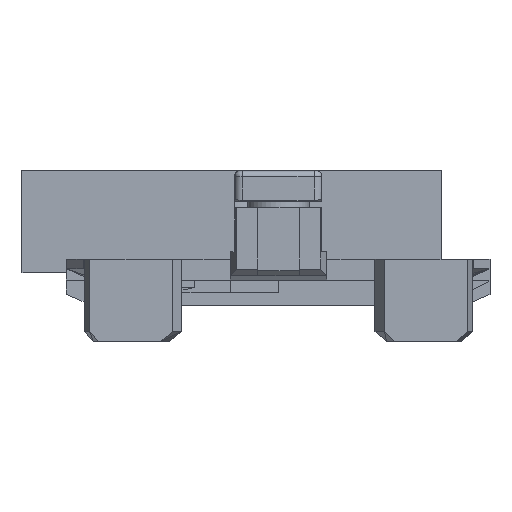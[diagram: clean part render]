
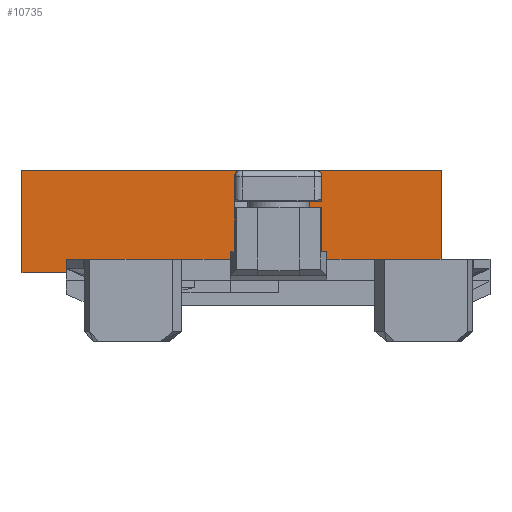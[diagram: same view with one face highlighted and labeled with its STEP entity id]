
A CAD part, left-side view. The second image highlights one B-rep face of the part: STEP entity #10735.
In plain terms, the highlighted planar face has unit normal (-1, 0, 0).
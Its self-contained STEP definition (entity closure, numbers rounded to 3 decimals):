
#32 = PLANE('',#33);
#33 = AXIS2_PLACEMENT_3D('',#34,#35,#36);
#34 = CARTESIAN_POINT('',(-40.,-25.,6.4));
#35 = DIRECTION('',(0.,0.,1.));
#36 = DIRECTION('',(1.,0.,-0.));
#1498 = PLANE('',#1499);
#1499 = AXIS2_PLACEMENT_3D('',#1500,#1501,#1502);
#1500 = CARTESIAN_POINT('',(9.042,16.475,5.37));
#1501 = DIRECTION('',(0.,1.,0.));
#1502 = DIRECTION('',(1.,0.,0.));
#1651 = VERTEX_POINT('',#1652);
#1652 = CARTESIAN_POINT('',(-8.758,-12.666,6.4));
#1666 = PLANE('',#1667);
#1667 = AXIS2_PLACEMENT_3D('',#1668,#1669,#1670);
#1668 = CARTESIAN_POINT('',(-8.758,-12.666,5.35));
#1669 = DIRECTION('',(-0.,1.,0.));
#1670 = DIRECTION('',(0.,0.,1.));
#1678 = EDGE_CURVE('',#1651,#1679,#1681,.T.);
#1679 = VERTEX_POINT('',#1680);
#1680 = CARTESIAN_POINT('',(-8.758,16.475,6.4));
#1681 = SURFACE_CURVE('',#1682,(#1686,#1693),.PCURVE_S1.);
#1682 = LINE('',#1683,#1684);
#1683 = CARTESIAN_POINT('',(-8.758,-12.666,6.4));
#1684 = VECTOR('',#1685,1.);
#1685 = DIRECTION('',(0.,1.,0.));
#1686 = PCURVE('',#32,#1687);
#1687 = DEFINITIONAL_REPRESENTATION('',(#1688),#1692);
#1688 = LINE('',#1689,#1690);
#1689 = CARTESIAN_POINT('',(31.242,12.334));
#1690 = VECTOR('',#1691,1.);
#1691 = DIRECTION('',(0.,1.));
#1692 = ( GEOMETRIC_REPRESENTATION_CONTEXT(2) 
PARAMETRIC_REPRESENTATION_CONTEXT() REPRESENTATION_CONTEXT('2D SPACE',''
  ) );
#1693 = PCURVE('',#1694,#1699);
#1694 = PLANE('',#1695);
#1695 = AXIS2_PLACEMENT_3D('',#1696,#1697,#1698);
#1696 = CARTESIAN_POINT('',(-8.758,-12.666,5.35));
#1697 = DIRECTION('',(1.,0.,-0.));
#1698 = DIRECTION('',(0.,0.,1.));
#1699 = DEFINITIONAL_REPRESENTATION('',(#1700),#1704);
#1700 = LINE('',#1701,#1702);
#1701 = CARTESIAN_POINT('',(1.05,0.));
#1702 = VECTOR('',#1703,1.);
#1703 = DIRECTION('',(0.,-1.));
#1704 = ( GEOMETRIC_REPRESENTATION_CONTEXT(2) 
PARAMETRIC_REPRESENTATION_CONTEXT() REPRESENTATION_CONTEXT('2D SPACE',''
  ) );
#9880 = EDGE_CURVE('',#1679,#9881,#9883,.T.);
#9881 = VERTEX_POINT('',#9882);
#9882 = CARTESIAN_POINT('',(-8.758,16.475,5.35));
#9883 = SURFACE_CURVE('',#9884,(#9888,#9895),.PCURVE_S1.);
#9884 = LINE('',#9885,#9886);
#9885 = CARTESIAN_POINT('',(-8.758,16.475,6.4));
#9886 = VECTOR('',#9887,1.);
#9887 = DIRECTION('',(0.,0.,-1.));
#9888 = PCURVE('',#1498,#9889);
#9889 = DEFINITIONAL_REPRESENTATION('',(#9890),#9894);
#9890 = LINE('',#9891,#9892);
#9891 = CARTESIAN_POINT('',(-17.8,-1.03));
#9892 = VECTOR('',#9893,1.);
#9893 = DIRECTION('',(0.,1.));
#9894 = ( GEOMETRIC_REPRESENTATION_CONTEXT(2) 
PARAMETRIC_REPRESENTATION_CONTEXT() REPRESENTATION_CONTEXT('2D SPACE',''
  ) );
#9895 = PCURVE('',#1694,#9896);
#9896 = DEFINITIONAL_REPRESENTATION('',(#9897),#9901);
#9897 = LINE('',#9898,#9899);
#9898 = CARTESIAN_POINT('',(1.05,-29.141));
#9899 = VECTOR('',#9900,1.);
#9900 = DIRECTION('',(-1.,0.));
#9901 = ( GEOMETRIC_REPRESENTATION_CONTEXT(2) 
PARAMETRIC_REPRESENTATION_CONTEXT() REPRESENTATION_CONTEXT('2D SPACE',''
  ) );
#9919 = PLANE('',#9920);
#9920 = AXIS2_PLACEMENT_3D('',#9921,#9922,#9923);
#9921 = CARTESIAN_POINT('',(-8.758,-12.666,5.35));
#9922 = DIRECTION('',(0.,0.,1.));
#9923 = DIRECTION('',(1.,0.,-0.));
#10640 = EDGE_CURVE('',#1651,#10641,#10643,.T.);
#10641 = VERTEX_POINT('',#10642);
#10642 = CARTESIAN_POINT('',(-8.758,-12.666,13.3));
#10643 = SURFACE_CURVE('',#10644,(#10648,#10655),.PCURVE_S1.);
#10644 = LINE('',#10645,#10646);
#10645 = CARTESIAN_POINT('',(-8.758,-12.666,5.4));
#10646 = VECTOR('',#10647,1.);
#10647 = DIRECTION('',(0.,0.,1.));
#10648 = PCURVE('',#1666,#10649);
#10649 = DEFINITIONAL_REPRESENTATION('',(#10650),#10654);
#10650 = LINE('',#10651,#10652);
#10651 = CARTESIAN_POINT('',(0.05,0.));
#10652 = VECTOR('',#10653,1.);
#10653 = DIRECTION('',(1.,0.));
#10654 = ( GEOMETRIC_REPRESENTATION_CONTEXT(2) 
PARAMETRIC_REPRESENTATION_CONTEXT() REPRESENTATION_CONTEXT('2D SPACE',''
  ) );
#10655 = PCURVE('',#1694,#10656);
#10656 = DEFINITIONAL_REPRESENTATION('',(#10657),#10661);
#10657 = LINE('',#10658,#10659);
#10658 = CARTESIAN_POINT('',(0.05,0.));
#10659 = VECTOR('',#10660,1.);
#10660 = DIRECTION('',(1.,0.));
#10661 = ( GEOMETRIC_REPRESENTATION_CONTEXT(2) 
PARAMETRIC_REPRESENTATION_CONTEXT() REPRESENTATION_CONTEXT('2D SPACE',''
  ) );
#10679 = PLANE('',#10680);
#10680 = AXIS2_PLACEMENT_3D('',#10681,#10682,#10683);
#10681 = CARTESIAN_POINT('',(-8.758,-12.666,13.3));
#10682 = DIRECTION('',(0.,0.,1.));
#10683 = DIRECTION('',(1.,0.,-0.));
#10735 = ADVANCED_FACE('',(#10736),#1694,.F.);
#10736 = FACE_BOUND('',#10737,.F.);
#10737 = EDGE_LOOP('',(#10738,#10739,#10740,#10741,#10764,#10792));
#10738 = ORIENTED_EDGE('',*,*,#10640,.F.);
#10739 = ORIENTED_EDGE('',*,*,#1678,.T.);
#10740 = ORIENTED_EDGE('',*,*,#9880,.T.);
#10741 = ORIENTED_EDGE('',*,*,#10742,.F.);
#10742 = EDGE_CURVE('',#10743,#9881,#10745,.T.);
#10743 = VERTEX_POINT('',#10744);
#10744 = CARTESIAN_POINT('',(-8.758,19.934,5.35));
#10745 = SURFACE_CURVE('',#10746,(#10750,#10757),.PCURVE_S1.);
#10746 = LINE('',#10747,#10748);
#10747 = CARTESIAN_POINT('',(-8.758,19.934,5.35));
#10748 = VECTOR('',#10749,1.);
#10749 = DIRECTION('',(0.,-1.,0.));
#10750 = PCURVE('',#1694,#10751);
#10751 = DEFINITIONAL_REPRESENTATION('',(#10752),#10756);
#10752 = LINE('',#10753,#10754);
#10753 = CARTESIAN_POINT('',(0.,-32.6));
#10754 = VECTOR('',#10755,1.);
#10755 = DIRECTION('',(0.,1.));
#10756 = ( GEOMETRIC_REPRESENTATION_CONTEXT(2) 
PARAMETRIC_REPRESENTATION_CONTEXT() REPRESENTATION_CONTEXT('2D SPACE',''
  ) );
#10757 = PCURVE('',#9919,#10758);
#10758 = DEFINITIONAL_REPRESENTATION('',(#10759),#10763);
#10759 = LINE('',#10760,#10761);
#10760 = CARTESIAN_POINT('',(0.,32.6));
#10761 = VECTOR('',#10762,1.);
#10762 = DIRECTION('',(0.,-1.));
#10763 = ( GEOMETRIC_REPRESENTATION_CONTEXT(2) 
PARAMETRIC_REPRESENTATION_CONTEXT() REPRESENTATION_CONTEXT('2D SPACE',''
  ) );
#10764 = ORIENTED_EDGE('',*,*,#10765,.F.);
#10765 = EDGE_CURVE('',#10766,#10743,#10768,.T.);
#10766 = VERTEX_POINT('',#10767);
#10767 = CARTESIAN_POINT('',(-8.758,19.934,13.3));
#10768 = SURFACE_CURVE('',#10769,(#10773,#10780),.PCURVE_S1.);
#10769 = LINE('',#10770,#10771);
#10770 = CARTESIAN_POINT('',(-8.758,19.934,13.3));
#10771 = VECTOR('',#10772,1.);
#10772 = DIRECTION('',(0.,0.,-1.));
#10773 = PCURVE('',#1694,#10774);
#10774 = DEFINITIONAL_REPRESENTATION('',(#10775),#10779);
#10775 = LINE('',#10776,#10777);
#10776 = CARTESIAN_POINT('',(7.95,-32.6));
#10777 = VECTOR('',#10778,1.);
#10778 = DIRECTION('',(-1.,0.));
#10779 = ( GEOMETRIC_REPRESENTATION_CONTEXT(2) 
PARAMETRIC_REPRESENTATION_CONTEXT() REPRESENTATION_CONTEXT('2D SPACE',''
  ) );
#10780 = PCURVE('',#10781,#10786);
#10781 = PLANE('',#10782);
#10782 = AXIS2_PLACEMENT_3D('',#10783,#10784,#10785);
#10783 = CARTESIAN_POINT('',(-8.758,19.934,5.35));
#10784 = DIRECTION('',(-0.,1.,0.));
#10785 = DIRECTION('',(0.,0.,1.));
#10786 = DEFINITIONAL_REPRESENTATION('',(#10787),#10791);
#10787 = LINE('',#10788,#10789);
#10788 = CARTESIAN_POINT('',(7.95,0.));
#10789 = VECTOR('',#10790,1.);
#10790 = DIRECTION('',(-1.,0.));
#10791 = ( GEOMETRIC_REPRESENTATION_CONTEXT(2) 
PARAMETRIC_REPRESENTATION_CONTEXT() REPRESENTATION_CONTEXT('2D SPACE',''
  ) );
#10792 = ORIENTED_EDGE('',*,*,#10793,.F.);
#10793 = EDGE_CURVE('',#10641,#10766,#10794,.T.);
#10794 = SURFACE_CURVE('',#10795,(#10799,#10806),.PCURVE_S1.);
#10795 = LINE('',#10796,#10797);
#10796 = CARTESIAN_POINT('',(-8.758,-12.666,13.3));
#10797 = VECTOR('',#10798,1.);
#10798 = DIRECTION('',(-0.,1.,0.));
#10799 = PCURVE('',#1694,#10800);
#10800 = DEFINITIONAL_REPRESENTATION('',(#10801),#10805);
#10801 = LINE('',#10802,#10803);
#10802 = CARTESIAN_POINT('',(7.95,0.));
#10803 = VECTOR('',#10804,1.);
#10804 = DIRECTION('',(0.,-1.));
#10805 = ( GEOMETRIC_REPRESENTATION_CONTEXT(2) 
PARAMETRIC_REPRESENTATION_CONTEXT() REPRESENTATION_CONTEXT('2D SPACE',''
  ) );
#10806 = PCURVE('',#10679,#10807);
#10807 = DEFINITIONAL_REPRESENTATION('',(#10808),#10812);
#10808 = LINE('',#10809,#10810);
#10809 = CARTESIAN_POINT('',(0.,0.));
#10810 = VECTOR('',#10811,1.);
#10811 = DIRECTION('',(0.,1.));
#10812 = ( GEOMETRIC_REPRESENTATION_CONTEXT(2) 
PARAMETRIC_REPRESENTATION_CONTEXT() REPRESENTATION_CONTEXT('2D SPACE',''
  ) );
